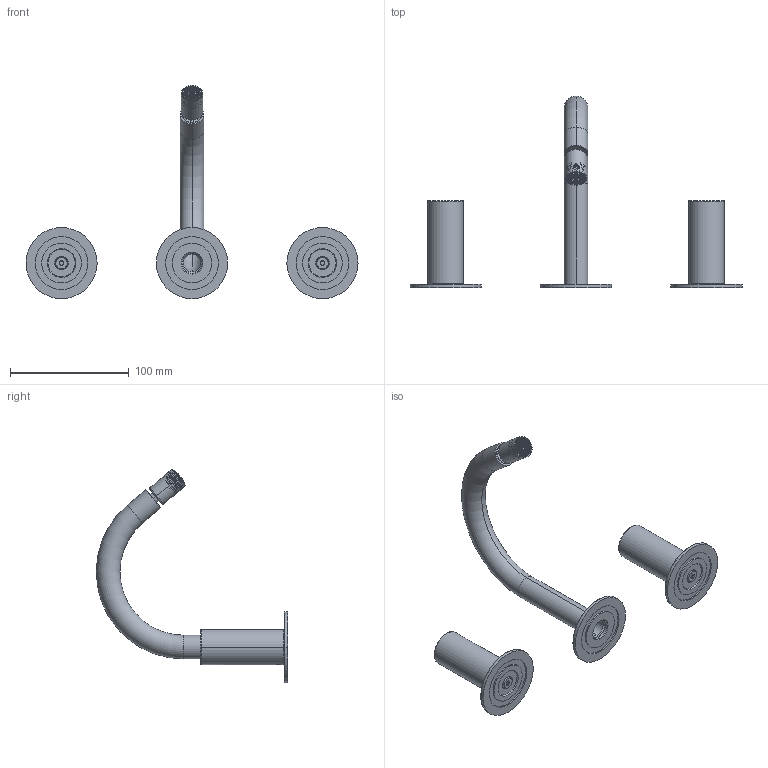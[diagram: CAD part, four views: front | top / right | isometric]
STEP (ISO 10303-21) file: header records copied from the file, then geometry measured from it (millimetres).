
FILE_DESCRIPTION((''),'2;1');
FILE_NAME('12104_SW0002','2025-02-27T15:27:02',('carloff'),(''),'CREO PARAMETRIC BY PTC INC, 2022014','CREO PARAMETRIC BY PTC INC, 2022014','');
FILE_SCHEMA(('CONFIG_CONTROL_DESIGN'));
Length unit declared in the file: millimetre
Products named in the file (1): 12104_SW0002
Bounding box: 280 x 161.5 x 179.89 mm (x, y, z)
Volume: 127633.1 mm3; surface area: 85990.4 mm2
Topology: 6 solids, 6 shells, 3170 faces, 9748 edges, 6476 vertices
Faces by surface type: plane 2108, torus 407, cylinder 366, bspline 194, cone 82, sphere 10, extrusion 3
Entity records: 171855 total; most frequent: CARTESIAN_POINT 91559, ORIENTED_EDGE 19430, DIRECTION 13027, EDGE_CURVE 9715, VERTEX_POINT 6476, AXIS2_PLACEMENT_3D 4563, B_SPLINE_CURVE_WITH_KNOTS 4230, VECTOR 3901
